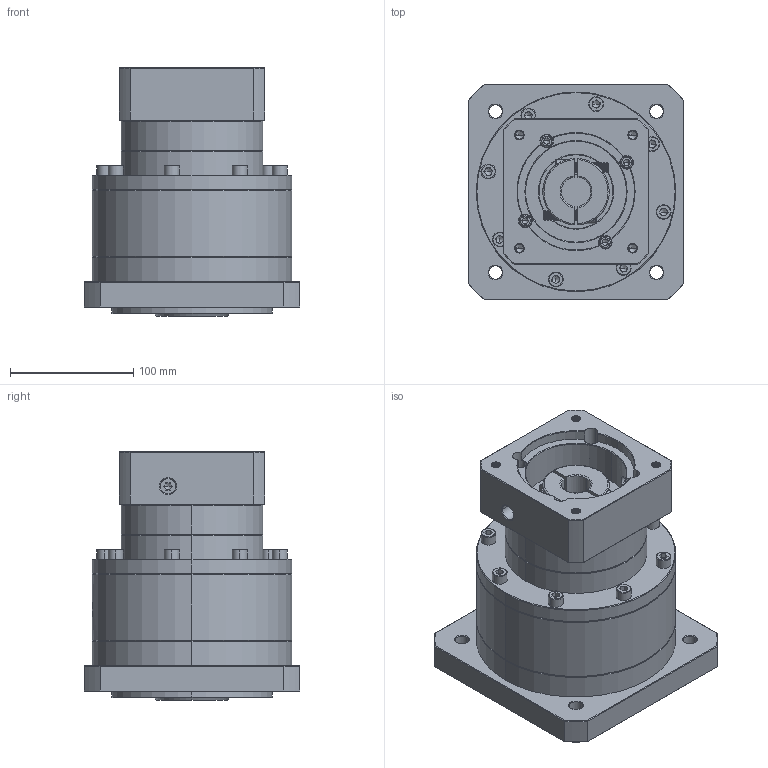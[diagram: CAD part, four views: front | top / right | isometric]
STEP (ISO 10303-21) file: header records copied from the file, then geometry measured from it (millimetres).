
FILE_DESCRIPTION (( 'STEP AP214' ), '1' );
FILE_NAME ('ZF160A-K35-L2-P2-24-95-130-M8.step', '2023-09-03T07:58:27', ( '' ), ( '' ), 'SwSTEP 2.0', 'SolidWorks 2016', '' );
FILE_SCHEMA (( 'AUTOMOTIVE_DESIGN' ));
Length unit declared in the file: millimetre
Products named in the file (1): ZF160A-K35-L2-P2-24-95-130-M8
Bounding box: 175 x 175 x 201.7 mm (x, y, z)
Volume: 3225621.6 mm3; surface area: 255055.7 mm2
Topology: 6 solids, 6 shells, 2373 faces, 6268 edges, 4017 vertices
Faces by surface type: plane 1112, cylinder 453, bspline 398, cone 354, torus 56
Entity records: 125470 total; most frequent: CARTESIAN_POINT 45612, ORIENTED_EDGE 12432, DIRECTION 9490, EDGE_CURVE 6216, VERTEX_POINT 4017, LINE 3320, VECTOR 3320, AXIS2_PLACEMENT_3D 3085
